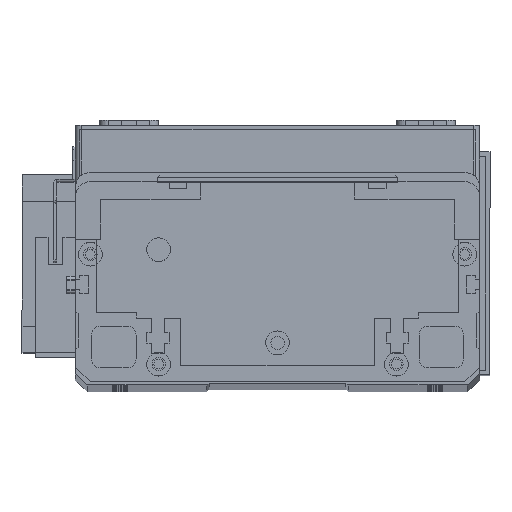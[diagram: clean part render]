
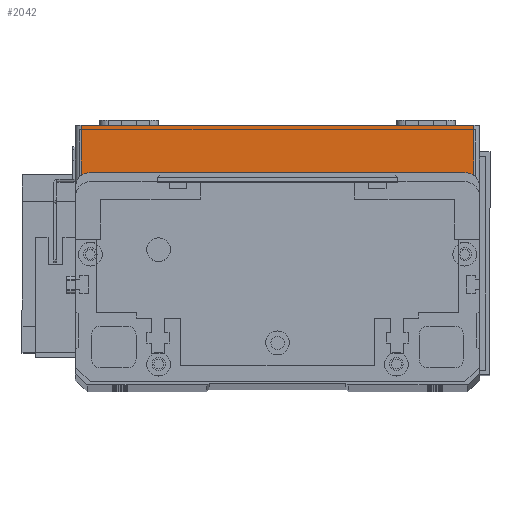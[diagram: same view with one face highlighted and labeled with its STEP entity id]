
A CAD part, top view. The second image highlights one B-rep face of the part: STEP entity #2042.
In plain terms, the highlighted planar face has unit normal (0, 0, 1) as drawn and (0, -1, 0) by its records, which use the part's own axes.
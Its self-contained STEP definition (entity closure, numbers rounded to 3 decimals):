
#1292 = ORIENTED_EDGE ( 'NONE', *, *, #12931, .T. ) ;
#2042 = ADVANCED_FACE ( 'NONE', ( #6100 ), #3232, .F. ) ;
#2835 = EDGE_CURVE ( 'NONE', #23462, #11146, #27263, .T. ) ;
#3102 = DIRECTION ( 'NONE',  ( 0., 0., 1. ) ) ;
#3118 = VECTOR ( 'NONE', #23074, 1000. ) ;
#3141 = DIRECTION ( 'NONE',  ( 0., 1., 0. ) ) ;
#3232 = PLANE ( 'NONE',  #6008 ) ;
#3298 = CARTESIAN_POINT ( 'NONE',  ( 0., 0., 19.5 ) ) ;
#4296 = EDGE_CURVE ( 'NONE', #23462, #24873, #23675, .T. ) ;
#5564 = DIRECTION ( 'NONE',  ( 0., 0., 1. ) ) ;
#5670 = CARTESIAN_POINT ( 'NONE',  ( 2., 0., 0. ) ) ;
#5896 = CARTESIAN_POINT ( 'NONE',  ( 134., 0., 19.5 ) ) ;
#6008 = AXIS2_PLACEMENT_3D ( 'NONE', #3298, #3141, #3102 ) ;
#6100 = FACE_OUTER_BOUND ( 'NONE', #8445, .T. ) ;
#7271 = EDGE_CURVE ( 'NONE', #24873, #19708, #15898, .T. ) ;
#8401 = CARTESIAN_POINT ( 'NONE',  ( 134., 0., 0. ) ) ;
#8445 = EDGE_LOOP ( 'NONE', ( #9876, #13161, #20229, #1292 ) ) ;
#9876 = ORIENTED_EDGE ( 'NONE', *, *, #2835, .F. ) ;
#11146 = VERTEX_POINT ( 'NONE', #28631 ) ;
#12327 = VECTOR ( 'NONE', #13674, 1000. ) ;
#12931 = EDGE_CURVE ( 'NONE', #19708, #11146, #22020, .T. ) ;
#13161 = ORIENTED_EDGE ( 'NONE', *, *, #4296, .T. ) ;
#13650 = CARTESIAN_POINT ( 'NONE',  ( 2., 0., 19.5 ) ) ;
#13674 = DIRECTION ( 'NONE',  ( 0., 0., -1. ) ) ;
#15898 = LINE ( 'NONE', #26368, #27155 ) ;
#19708 = VERTEX_POINT ( 'NONE', #8401 ) ;
#20229 = ORIENTED_EDGE ( 'NONE', *, *, #7271, .T. ) ;
#22020 = LINE ( 'NONE', #5896, #28545 ) ;
#23074 = DIRECTION ( 'NONE',  ( 1., 0., 0. ) ) ;
#23462 = VERTEX_POINT ( 'NONE', #24105 ) ;
#23467 = CARTESIAN_POINT ( 'NONE',  ( 0., 0., 19.5 ) ) ;
#23675 = LINE ( 'NONE', #13650, #12327 ) ;
#24105 = CARTESIAN_POINT ( 'NONE',  ( 2., 0., 19.5 ) ) ;
#24873 = VERTEX_POINT ( 'NONE', #5670 ) ;
#26368 = CARTESIAN_POINT ( 'NONE',  ( 0., 0., 0. ) ) ;
#27155 = VECTOR ( 'NONE', #27291, 1000. ) ;
#27263 = LINE ( 'NONE', #23467, #3118 ) ;
#27291 = DIRECTION ( 'NONE',  ( 1., 0., 0. ) ) ;
#28545 = VECTOR ( 'NONE', #5564, 1000. ) ;
#28631 = CARTESIAN_POINT ( 'NONE',  ( 134., 0., 19.5 ) ) ;
